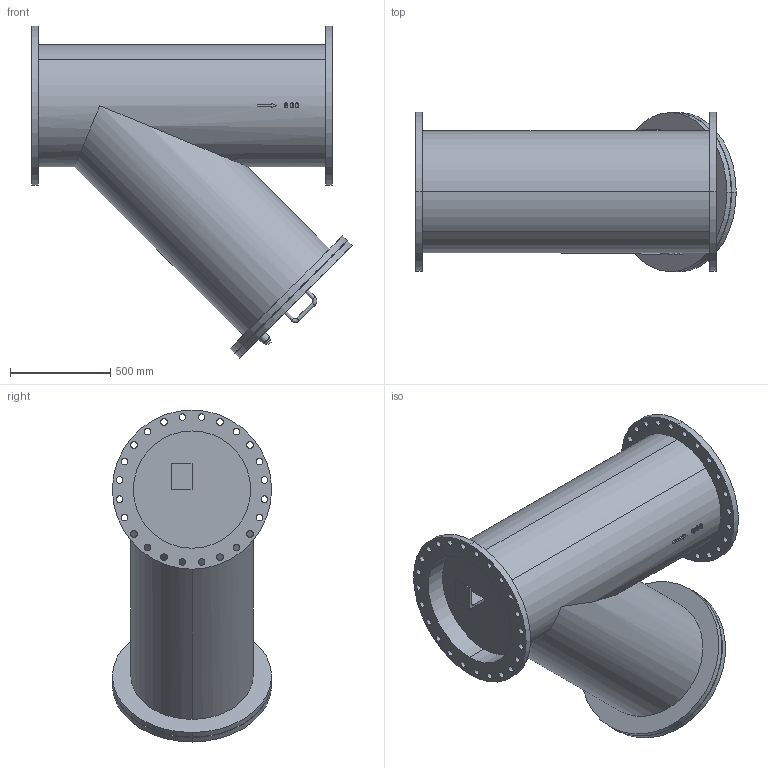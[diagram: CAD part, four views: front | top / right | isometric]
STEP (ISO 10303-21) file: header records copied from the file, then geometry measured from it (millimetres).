
FILE_DESCRIPTION( (''), '2;1');
FILE_NAME ('PC1056.8336.SY-13(600A)_22944.stp','2024-08-20T08:41:28',(''),(''),'spGate 19.8.4 (****-****-****-****)','','');
FILE_SCHEMA (('AUTOMOTIVE_DESIGN'));
Length unit declared in the file: millimetre
Products named in the file (14): Assembly; SY13(600A)本体P; CP_山形鋼(等辺)_L-130x130x15x100_9; 600Aカバー; PC1056-prt3; PC1056-prt4; PC1056-prt5; PC1056-prt6; PC1056-prt7; 500A取っ手_M7; 500A取っ手_M8; 500A取っ手_M9; 500A取っ手_M10; plug-25A-JISB2301
Assembly tree (22 placements, depth 2):
  Assembly
    SY13(600A)本体P
    CP_山形鋼(等辺)_L-130x130x15x100_9
    600Aカバー
    PC1056-prt3  x2
    PC1056-prt4  x2
    PC1056-prt5  x2
    PC1056-prt6  x2
    PC1056-prt7  x2
    500A取っ手_M7  x2
    500A取っ手_M8  x2
    500A取っ手_M9  x2
    500A取っ手_M10  x2
    plug-25A-JISB2301
Bounding box: 1600.42 x 795 x 1657.92 mm (x, y, z)
Volume: 707057329.3 mm3; surface area: 8202938 mm2
Topology: 12 solids, 12 shells, 284 faces, 717 edges, 485 vertices
Faces by surface type: cylinder 168, plane 75, bspline 41
Entity records: 16710 total; most frequent: CARTESIAN_POINT 4499, DIRECTION 1362, ORIENTED_EDGE 1354, COLOUR_RGB 956, PRESENTATION_STYLE_ASSIGNMENT 956, STYLED_ITEM 956, DRAUGHTING_PRE_DEFINED_CURVE_FONT 682, CURVE_STYLE 682
